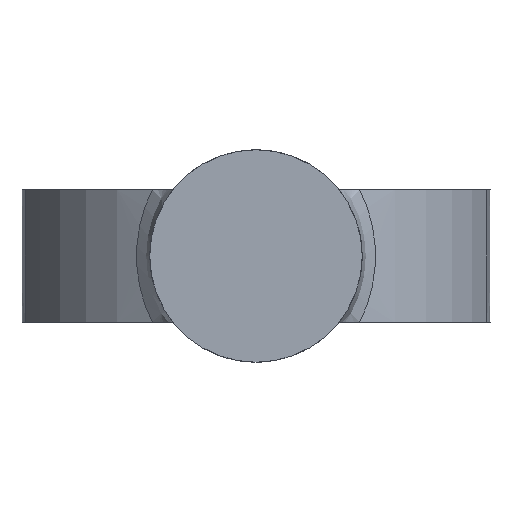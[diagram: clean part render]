
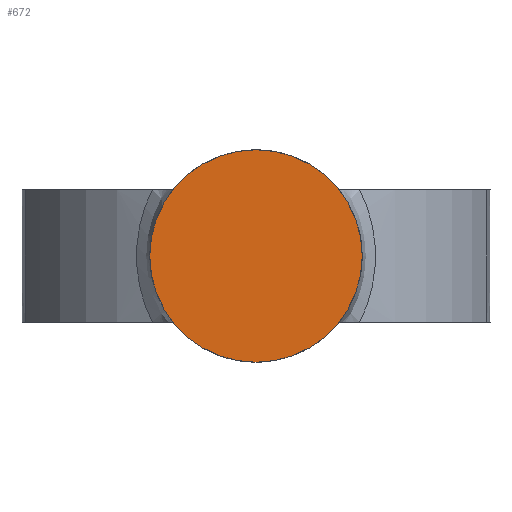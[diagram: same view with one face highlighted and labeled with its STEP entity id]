
A CAD part, front view. The second image highlights one B-rep face of the part: STEP entity #672.
In plain terms, the highlighted planar face has unit normal (0, -1, 0).
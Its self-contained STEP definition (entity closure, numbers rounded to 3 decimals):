
#180 = DIRECTION ( 'NONE',  ( 0., 1., 0. ) ) ;
#191 = EDGE_CURVE ( 'NONE', #975, #642, #716, .T. ) ;
#283 = DIRECTION ( 'NONE',  ( -1., 0., 0. ) ) ;
#456 = AXIS2_PLACEMENT_3D ( 'NONE', #736, #613, #944 ) ;
#503 = AXIS2_PLACEMENT_3D ( 'NONE', #670, #180, #283 ) ;
#600 = FACE_OUTER_BOUND ( 'NONE', #951, .T. ) ;
#606 = CARTESIAN_POINT ( 'NONE',  ( 8., -7.856, 0. ) ) ;
#613 = DIRECTION ( 'NONE',  ( 0., 1., 0. ) ) ;
#626 = DIRECTION ( 'NONE',  ( -1., 0., 0. ) ) ;
#634 = AXIS2_PLACEMENT_3D ( 'NONE', #703, #1233, #626 ) ;
#642 = VERTEX_POINT ( 'NONE', #732 ) ;
#670 = CARTESIAN_POINT ( 'NONE',  ( 0., -7.856, 0. ) ) ;
#672 = ADVANCED_FACE ( 'NONE', ( #600 ), #997, .F. ) ;
#703 = CARTESIAN_POINT ( 'NONE',  ( 0., -7.856, 0. ) ) ;
#716 = CIRCLE ( 'NONE', #456, 8. ) ;
#732 = CARTESIAN_POINT ( 'NONE',  ( -8., -7.856, 0. ) ) ;
#736 = CARTESIAN_POINT ( 'NONE',  ( 0., -7.856, 0. ) ) ;
#824 = ORIENTED_EDGE ( 'NONE', *, *, #1286, .F. ) ;
#944 = DIRECTION ( 'NONE',  ( -1., 0., 0. ) ) ;
#951 = EDGE_LOOP ( 'NONE', ( #824, #1057 ) ) ;
#975 = VERTEX_POINT ( 'NONE', #606 ) ;
#997 = PLANE ( 'NONE',  #503 ) ;
#1045 = CIRCLE ( 'NONE', #634, 8. ) ;
#1057 = ORIENTED_EDGE ( 'NONE', *, *, #191, .F. ) ;
#1233 = DIRECTION ( 'NONE',  ( 0., 1., 0. ) ) ;
#1286 = EDGE_CURVE ( 'NONE', #642, #975, #1045, .T. ) ;
